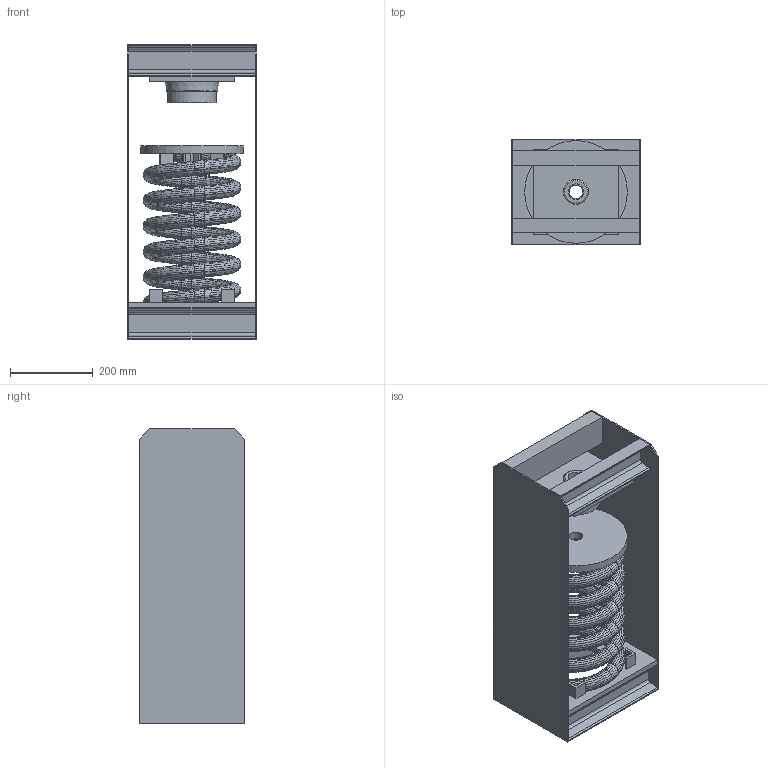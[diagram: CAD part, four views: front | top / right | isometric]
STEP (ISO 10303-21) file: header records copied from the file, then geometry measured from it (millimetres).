
FILE_DESCRIPTION(/* description */ (''),/* implementation_level */ '2;1');
FILE_NAME(/* name */ 'C:\001_Work\Designs\HANGER BOXES\30N 100 SERIES\30N-165, 190-191\30N-165.stp',/* time_stamp */ '2015-06-09T16:55:12-04:00',/* author */ ('rramoutar'),/* organization */ (''),/* preprocessor_version */ 'ST-DEVELOPER v15.2',/* originating_system */ 'Autodesk Inventor 2014',/* authorisation */ '');
FILE_SCHEMA (('AUTOMOTIVE_DESIGN { 1 0 10303 214 3 1 1 }'));
Products named in the file (1): 30N-165
Bounding box: 311.15 x 254 x 711.2 mm (x, y, z)
Volume: 5250707.8 mm3; surface area: 2335215.1 mm2
Topology: 20 solids, 20 shells, 741 faces, 1570 edges, 874 vertices
Faces by surface type: bspline 534, plane 150, cylinder 55, cone 1, torus 1
Full cylindrical faces by diameter (mm): 31.75 x1, 33.338 x1, 38.1 x2, 47.625 x4, 60.325 x1, 107.95 x2, 117.475 x1, 122.238 x2, 165.1 x1, 247.65 x1
Entity records: 41419 total; most frequent: CARTESIAN_POINT 28767, ORIENTED_EDGE 3100, EDGE_CURVE 1550, B_SPLINE_CURVE_WITH_KNOTS 1079, DIRECTION 1002, VERTEX_POINT 872, EDGE_LOOP 778, STYLED_ITEM 761
